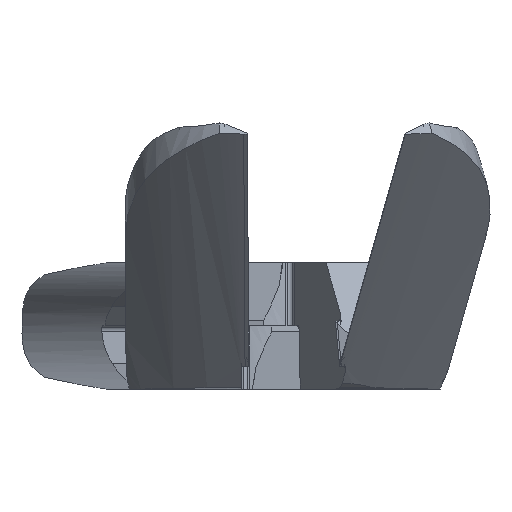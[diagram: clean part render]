
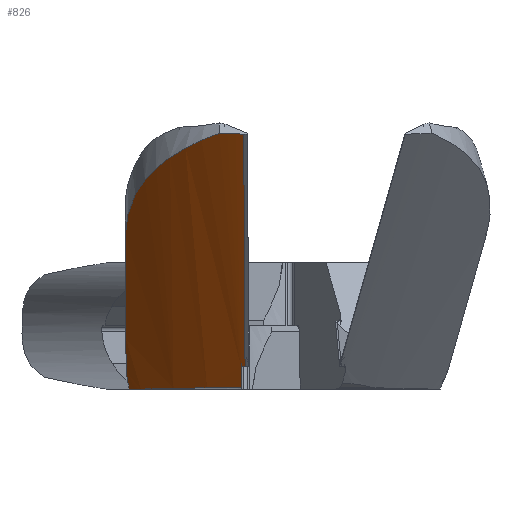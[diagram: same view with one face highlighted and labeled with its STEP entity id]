
A CAD part, left-side view. The second image highlights one B-rep face of the part: STEP entity #826.
In plain terms, the highlighted cylindrical face has radius 50.8 mm (diameter 101.6 mm), a partial arc.
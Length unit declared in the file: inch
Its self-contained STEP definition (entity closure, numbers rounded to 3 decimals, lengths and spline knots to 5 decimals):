
#705=CARTESIAN_POINT('',(-1.75847,0.00116,2.11801));
#706=DIRECTION('',(0.707,-0.001,-0.707));
#707=DIRECTION('',(-0.001,-1.,0.001));
#708=AXIS2_PLACEMENT_3D('',#705,#706,#707);
#709=CYLINDRICAL_SURFACE('',#708,2.0);
#710=CARTESIAN_POINT('',(-3.17259,0.02118,0.70384));
#711=VERTEX_POINT('',#710);
#712=CARTESIAN_POINT('',(-1.94006,0.01841,-0.52869));
#713=VERTEX_POINT('',#712);
#714=CARTESIAN_POINT('',(-3.17259,0.02118,0.70384));
#715=CARTESIAN_POINT('',(-2.54064,0.01977,0.07189));
#716=CARTESIAN_POINT('',(-1.94006,0.01841,-0.52869));
#724=(BOUNDED_CURVE()B_SPLINE_CURVE(2,(#714,#715,#716),.UNSPECIFIED.,.F.,.U.)B_SPLINE_CURVE_WITH_KNOTS((3,3),(0.00065,1.73967),.UNSPECIFIED.)CURVE()GEOMETRIC_REPRESENTATION_ITEM()RATIONAL_B_SPLINE_CURVE((1.,1.,1.))REPRESENTATION_ITEM(''));
#725=EDGE_CURVE('',#711,#713,#724,.T.);
#726=ORIENTED_EDGE('',*,*,#725,.F.);
#727=CARTESIAN_POINT('',(-3.16859,0.15116,0.70766));
#728=VERTEX_POINT('',#727);
#729=CARTESIAN_POINT('',(-1.75847,0.00116,2.11801));
#730=DIRECTION('',(-0.707,0.001,0.707));
#731=DIRECTION('',(-0.001,-1.,0.001));
#732=AXIS2_PLACEMENT_3D('',#729,#730,#731);
#733=CIRCLE('',#732,2.0);
#734=EDGE_CURVE('',#728,#711,#733,.T.);
#735=ORIENTED_EDGE('',*,*,#734,.F.);
#736=CARTESIAN_POINT('',(-2.483,0.65053,0.16778));
#737=VERTEX_POINT('',#736);
#738=CARTESIAN_POINT('',(-2.483,0.65053,0.16778));
#739=CARTESIAN_POINT('',(-2.57307,0.65066,0.25786));
#740=CARTESIAN_POINT('',(-2.67528,0.62499,0.3467));
#741=CARTESIAN_POINT('',(-2.87218,0.52161,0.4998));
#742=CARTESIAN_POINT('',(-2.96638,0.44394,0.56473));
#743=CARTESIAN_POINT('',(-3.08911,0.29557,0.64979));
#744=CARTESIAN_POINT('',(-3.13363,0.22677,0.68075));
#745=CARTESIAN_POINT('',(-3.16859,0.15116,0.70766));
#746=B_SPLINE_CURVE_WITH_KNOTS('',3,(#738,#739,#740,#741,#742,#743,#744,#745),.UNSPECIFIED.,.F.,.U.,(4,2,2,4),(0.0,0.38214,0.76429,1.01366),.UNSPECIFIED.);
#747=EDGE_CURVE('',#737,#728,#746,.T.);
#748=ORIENTED_EDGE('',*,*,#747,.F.);
#749=CARTESIAN_POINT('',(-2.10187,0.64998,-0.21334));
#750=VERTEX_POINT('',#749);
#751=CARTESIAN_POINT('',(-2.10187,0.64998,-0.21334));
#752=DIRECTION('',(-0.707,0.001,0.707));
#753=VECTOR('',#752,0.539);
#754=LINE('',#751,#753);
#755=EDGE_CURVE('',#750,#737,#754,.T.);
#756=ORIENTED_EDGE('',*,*,#755,.F.);
#757=CARTESIAN_POINT('',(-1.76088,0.64993,-0.55411));
#758=VERTEX_POINT('',#757);
#759=CARTESIAN_POINT('',(-1.76088,0.64993,-0.55411));
#760=CARTESIAN_POINT('',(-1.81331,0.64988,-0.50175));
#761=CARTESIAN_POINT('',(-1.8645,0.64986,-0.4506));
#762=CARTESIAN_POINT('',(-1.97413,0.64987,-0.34104));
#763=CARTESIAN_POINT('',(-2.01954,0.6499,-0.29564));
#764=CARTESIAN_POINT('',(-2.08921,0.64996,-0.226));
#765=CARTESIAN_POINT('',(-2.09606,0.64997,-0.21915));
#766=CARTESIAN_POINT('',(-2.10187,0.64998,-0.21334));
#767=B_SPLINE_CURVE_WITH_KNOTS('',3,(#759,#760,#761,#762,#763,#764,#765,#766),.UNSPECIFIED.,.F.,.U.,(4,2,2,4),(-0.50075,-0.27094,-0.02464,0.0),.UNSPECIFIED.);
#768=EDGE_CURVE('',#758,#750,#767,.T.);
#769=ORIENTED_EDGE('',*,*,#768,.F.);
#770=CARTESIAN_POINT('',(-1.70224,0.63916,-0.6179));
#771=VERTEX_POINT('',#770);
#772=CARTESIAN_POINT('',(-1.70224,0.63916,-0.6179));
#773=CARTESIAN_POINT('',(-1.72172,0.64288,-0.59666));
#774=CARTESIAN_POINT('',(-1.74132,0.64649,-0.57533));
#775=CARTESIAN_POINT('',(-1.76088,0.64993,-0.55411));
#776=B_SPLINE_CURVE_WITH_KNOTS('',3,(#772,#773,#774,#775),.UNSPECIFIED.,.F.,.U.,(4,4),(-0.0872,0.0),.UNSPECIFIED.);
#777=EDGE_CURVE('',#771,#758,#776,.T.);
#778=ORIENTED_EDGE('',*,*,#777,.F.);
#779=CARTESIAN_POINT('',(-1.67441,0.63381,-0.64825));
#780=VERTEX_POINT('',#779);
#781=CARTESIAN_POINT('',(4.64834,-0.00811,-4.28873));
#782=DIRECTION('',(0.0,0.985,-0.174));
#783=DIRECTION('',(0.712,-0.122,-0.691));
#784=AXIS2_PLACEMENT_3D('',#781,#782,#783);
#785=ELLIPSE('',#784,16.42303,2.);
#786=EDGE_CURVE('',#780,#771,#785,.T.);
#787=ORIENTED_EDGE('',*,*,#786,.F.);
#788=CARTESIAN_POINT('',(-1.70201,0.57224,-0.64825));
#789=VERTEX_POINT('',#788);
#790=CARTESIAN_POINT('',(1.00782,-0.00284,-0.64825));
#791=DIRECTION('',(0.,0.,-1.0));
#792=DIRECTION('',(1.,-0.001,0.));
#793=AXIS2_PLACEMENT_3D('',#790,#791,#792);
#794=ELLIPSE('',#793,2.82844,2.);
#795=EDGE_CURVE('',#789,#780,#794,.T.);
#796=ORIENTED_EDGE('',*,*,#795,.F.);
#797=CARTESIAN_POINT('',(-1.83025,0.03982,-0.63805));
#798=VERTEX_POINT('',#797);
#799=CARTESIAN_POINT('',(-1.83025,0.03982,-0.63805));
#800=CARTESIAN_POINT('',(-1.82616,0.15754,-0.63876));
#801=CARTESIAN_POINT('',(-1.80424,0.27434,-0.6426));
#802=CARTESIAN_POINT('',(-1.75027,0.45061,-0.64705));
#803=CARTESIAN_POINT('',(-1.72756,0.51185,-0.64825));
#804=CARTESIAN_POINT('',(-1.70201,0.57224,-0.64825));
#805=B_SPLINE_CURVE_WITH_KNOTS('',3,(#799,#800,#801,#802,#803,#804),.UNSPECIFIED.,.F.,.U.,(4,2,4),(3.64072,3.99449,4.18608),.UNSPECIFIED.);
#806=EDGE_CURVE('',#798,#789,#805,.T.);
#807=ORIENTED_EDGE('',*,*,#806,.F.);
#808=CARTESIAN_POINT('',(-1.93991,0.03973,-0.52839));
#809=VERTEX_POINT('',#808);
#810=CARTESIAN_POINT('',(-1.93991,0.03973,-0.52839));
#811=CARTESIAN_POINT('',(-1.90317,0.03975,-0.56513));
#812=CARTESIAN_POINT('',(-1.86691,0.03978,-0.60139));
#813=CARTESIAN_POINT('',(-1.83025,0.03982,-0.63805));
#814=B_SPLINE_CURVE_WITH_KNOTS('',3,(#810,#811,#812,#813),.UNSPECIFIED.,.F.,.U.,(4,4),(-0.15555,0.0),.UNSPECIFIED.);
#815=EDGE_CURVE('',#809,#798,#814,.T.);
#816=ORIENTED_EDGE('',*,*,#815,.F.);
#817=CARTESIAN_POINT('',(-1.94006,0.01841,-0.52869));
#818=CARTESIAN_POINT('',(-1.94002,0.02552,-0.52863));
#819=CARTESIAN_POINT('',(-1.93997,0.03262,-0.52853));
#820=CARTESIAN_POINT('',(-1.93991,0.03973,-0.52839));
#821=B_SPLINE_CURVE_WITH_KNOTS('',3,(#817,#818,#819,#820),.UNSPECIFIED.,.F.,.U.,(4,4),(-0.02132,0.0),.UNSPECIFIED.);
#822=EDGE_CURVE('',#713,#809,#821,.T.);
#823=ORIENTED_EDGE('',*,*,#822,.F.);
#824=EDGE_LOOP('',(#726,#735,#748,#756,#769,#778,#787,#796,#807,#816,#823));
#825=FACE_OUTER_BOUND('',#824,.T.);
#826=ADVANCED_FACE('',(#825),#709,.T.);
